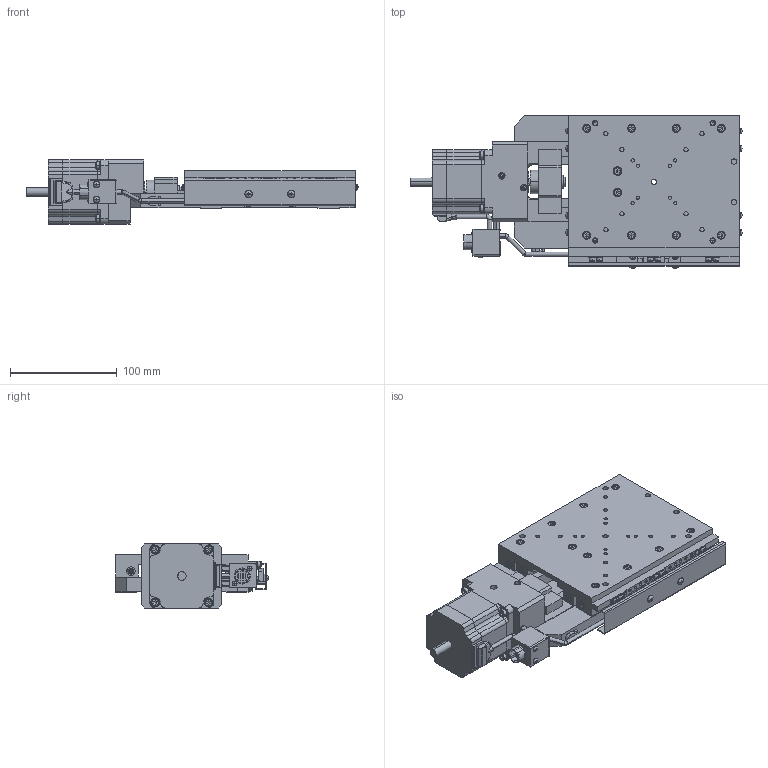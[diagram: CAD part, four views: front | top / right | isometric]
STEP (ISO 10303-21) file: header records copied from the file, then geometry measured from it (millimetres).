
FILE_DESCRIPTION (( 'STEP AP203' ), '1' );
FILE_NAME ('XA16A-R202.STEP', '2019-03-01T08:03:08', ( '' ), ( '' ), 'SwSTEP 2.0', 'SolidWorks 2018', '' );
FILE_SCHEMA (( 'CONFIG_CONTROL_DESIGN' ));
Length unit declared in the file: millimetre
Products named in the file (3): table; base; XA16A-R202
Assembly tree (2 placements, depth 2):
  XA16A-R202
    table
    base
Bounding box: 310.98 x 143.09 x 60 mm (x, y, z)
Volume: 960384.1 mm3; surface area: 208006.5 mm2
Topology: 2 solids, 2 shells, 2344 faces, 5775 edges, 3560 vertices
Faces by surface type: plane 1385, cylinder 597, cone 276, torus 34, sphere 32, bspline 20
Entity records: 69869 total; most frequent: CARTESIAN_POINT 13137, DIRECTION 12256, ORIENTED_EDGE 11382, EDGE_CURVE 5691, AXIS2_PLACEMENT_3D 4381, VERTEX_POINT 3560, LINE 3494, VECTOR 3494
